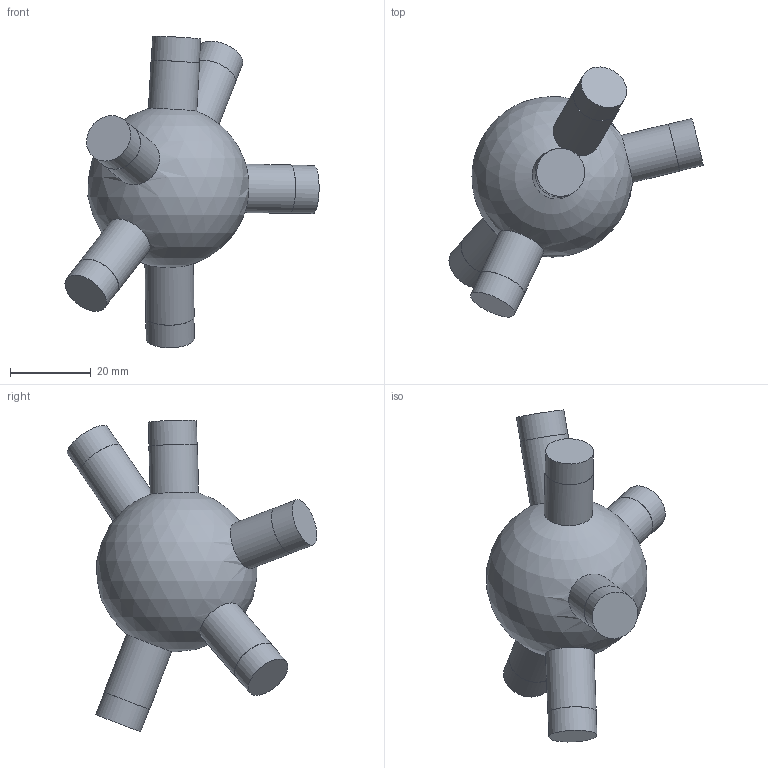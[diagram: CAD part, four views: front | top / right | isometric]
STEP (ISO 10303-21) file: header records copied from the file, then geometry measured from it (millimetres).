
FILE_DESCRIPTION(('Open CASCADE Model'),'2;1');
FILE_NAME('Open CASCADE Shape Model','2026-10-21T12:47:57',('Author'),( 'Open CASCADE'),'Open CASCADE STEP processor 7.9','Open CASCADE 7.9' ,'Unknown');
FILE_SCHEMA(('AUTOMOTIVE_DESIGN { 1 0 10303 214 1 1 1 1 }'));
Length unit declared in the file: millimetre
Products named in the file (1): Open CASCADE STEP translator 7.9 64
Bounding box: 62.92 x 61.87 x 77.13 mm (x, y, z)
Volume: 46514.2 mm3; surface area: 9461.4 mm2
Topology: 1 solids, 1 shells, 25 faces, 42 edges, 28 vertices
Faces by surface type: cylinder 12, plane 12, sphere 1
Full cylindrical faces by diameter (mm): 11.9 x6, 12 x6
Entity records: 1577 total; most frequent: CARTESIAN_POINT 629, DIRECTION 195, ORIENTED_EDGE 82, PCURVE 82, DEFINITIONAL_REPRESENTATION 82, LINE 67, VECTOR 67, AXIS2_PLACEMENT_3D 55
